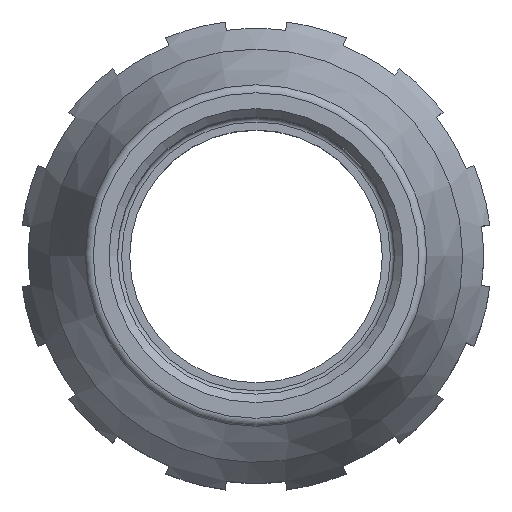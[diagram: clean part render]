
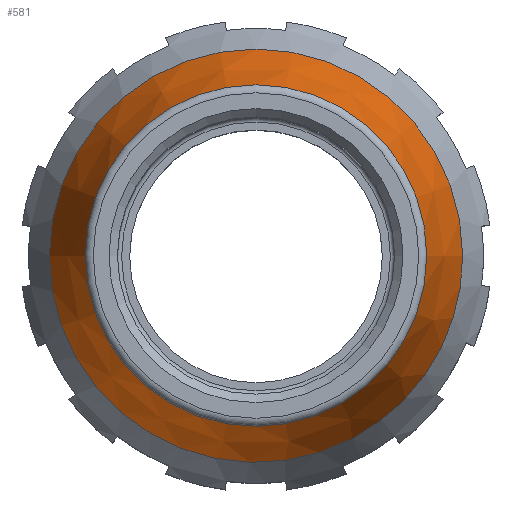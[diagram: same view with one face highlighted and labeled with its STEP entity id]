
A CAD part, top view. The second image highlights one B-rep face of the part: STEP entity #581.
In plain terms, the highlighted conical face has half-angle 18.168 degrees and reference radius 20.194 mm.
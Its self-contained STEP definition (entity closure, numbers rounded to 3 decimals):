
#581 = ADVANCED_FACE( '', ( #1198, #1199 ), #1200, .T. );
#1198 = FACE_OUTER_BOUND( '', #2541, .T. );
#1199 = FACE_BOUND( '', #2542, .T. );
#1200 = CONICAL_SURFACE( '', #2543, 20.194, 0.317 );
#2541 = EDGE_LOOP( '', ( #4232 ) );
#2542 = EDGE_LOOP( '', ( #4233 ) );
#2543 = AXIS2_PLACEMENT_3D( '', #4234, #4235, #4236 );
#4232 = ORIENTED_EDGE( '', *, *, #4597, .T. );
#4233 = ORIENTED_EDGE( '', *, *, #4712, .T. );
#4234 = CARTESIAN_POINT( '', ( 0., 0., -0.452 ) );
#4235 = DIRECTION( '', ( 0., 0., -1. ) );
#4236 = DIRECTION( '', ( -1., 0., 0. ) );
#4597 = EDGE_CURVE( '', #5350, #5350, #5351, .T. );
#4712 = EDGE_CURVE( '', #5529, #5529, #5530, .T. );
#5350 = VERTEX_POINT( '', #6487 );
#5351 = CIRCLE( '', #6488, 24.535 );
#5529 = VERTEX_POINT( '', #6754 );
#5530 = CIRCLE( '', #6755, 20.272 );
#6487 = CARTESIAN_POINT( '', ( 24.535, 0., -13.679 ) );
#6488 = AXIS2_PLACEMENT_3D( '', #8095, #8096, #8097 );
#6754 = CARTESIAN_POINT( '', ( -20.272, 0., -0.688 ) );
#6755 = AXIS2_PLACEMENT_3D( '', #8266, #8267, #8268 );
#8095 = CARTESIAN_POINT( '', ( 0., 0., -13.679 ) );
#8096 = DIRECTION( '', ( 0., 0., 1. ) );
#8097 = DIRECTION( '', ( 1., 0., 0. ) );
#8266 = CARTESIAN_POINT( '', ( 0., 0., -0.688 ) );
#8267 = DIRECTION( '', ( 0., 0., -1. ) );
#8268 = DIRECTION( '', ( -1., 0., 0. ) );
